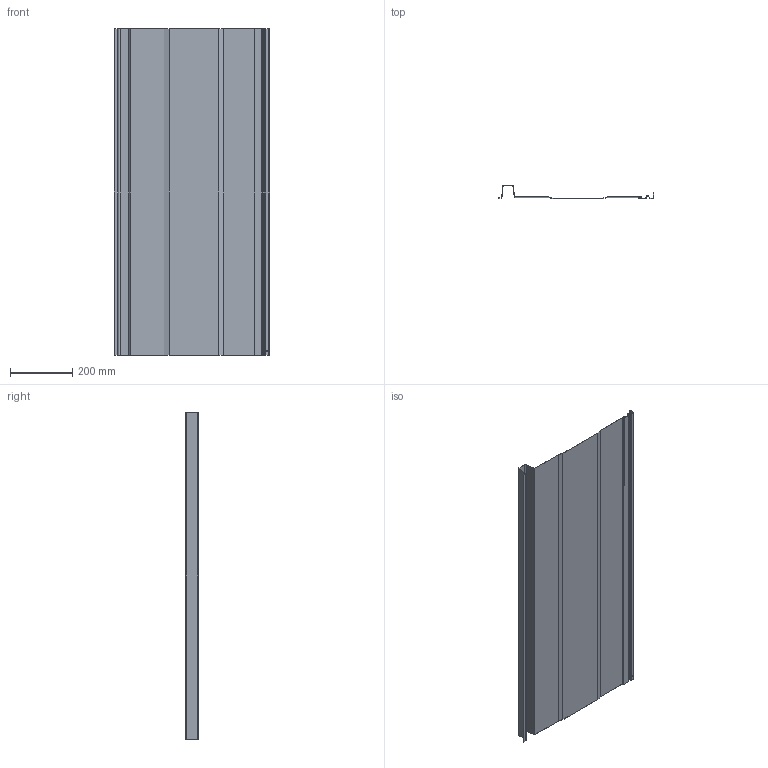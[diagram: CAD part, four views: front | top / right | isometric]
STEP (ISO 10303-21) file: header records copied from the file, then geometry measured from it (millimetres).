
FILE_DESCRIPTION (( 'STEP AP203' ), '1' );
FILE_NAME ('MS4.STEP', '2018-06-13T17:29:52', ( 'Michael Moliner' ), ( '' ), 'SwSTEP 2.0', 'SolidWorks 2018', '' );
FILE_SCHEMA (( 'CONFIG_CONTROL_DESIGN' ));
Length unit declared in the file: inch
Products named in the file (2): MS4
Bounding box: 500.08 x 42.55 x 1049.19 mm (x, y, z)
Volume: 411145.7 mm3; surface area: 1297069.3 mm2
Topology: 1 solids, 1 shells, 62 faces, 180 edges, 120 vertices
Faces by surface type: plane 36, cylinder 26
Entity records: 2217 total; most frequent: CARTESIAN_POINT 364, DIRECTION 360, ORIENTED_EDGE 360, EDGE_CURVE 180, VECTOR 128, LINE 128, VERTEX_POINT 120, AXIS2_PLACEMENT_3D 116
